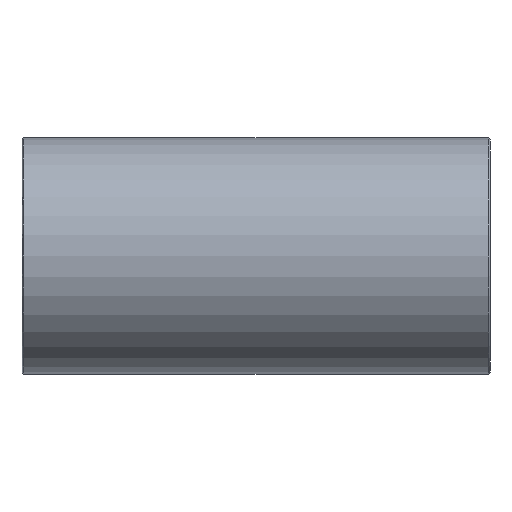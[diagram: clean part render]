
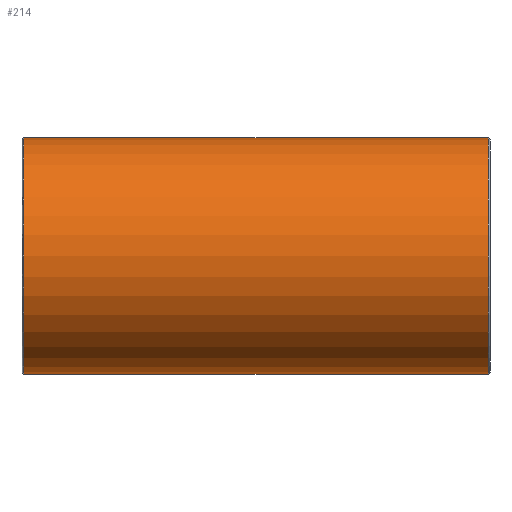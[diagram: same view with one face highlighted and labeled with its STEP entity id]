
A CAD part, front view. The second image highlights one B-rep face of the part: STEP entity #214.
In plain terms, the highlighted cylindrical face has radius 25 mm (diameter 50 mm), a full revolution.
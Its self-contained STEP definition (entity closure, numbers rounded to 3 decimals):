
#27=B_SPLINE_CURVE_WITH_KNOTS('',3,(#355,#356,#357,#358,#359,#360,#361,
#362,#363,#364,#365,#366,#367,#368,#369,#370,#371,#372,#373,#374,#375,#376,
#377,#378,#379,#380,#381,#382,#383,#384,#385,#386,#387,#388,#389,#390,#391,
#392,#393,#394,#395,#396,#397,#398,#399,#400,#401,#402,#403,#404,#405,#406,
#407,#408,#409,#410,#411,#412,#413,#414,#415,#416,#417,#418,#419,#420),
 .UNSPECIFIED.,.T.,.F.,(4,2,2,2,2,2,2,2,2,2,2,2,2,2,2,2,2,2,2,2,2,2,2,2,
2,2,2,2,2,2,2,2,4),(0.,0.372,0.743,1.115,
1.486,1.851,2.215,2.579,2.944,
3.308,3.672,4.037,4.401,4.772,
5.144,5.516,5.887,6.259,6.63,
7.002,7.373,7.738,8.102,8.466,
8.831,9.195,9.559,9.924,10.288,
10.659,11.031,11.403,11.774),
 .UNSPECIFIED.);
#29=FACE_BOUND('',#70,.T.);
#30=FACE_BOUND('',#71,.T.);
#50=FACE_OUTER_BOUND('',#69,.T.);
#69=EDGE_LOOP('',(#167));
#70=EDGE_LOOP('',(#168));
#71=EDGE_LOOP('',(#169));
#109=CIRCLE('',#236,25.);
#110=CIRCLE('',#237,25.);
#127=VERTEX_POINT('',#350);
#128=VERTEX_POINT('',#352);
#129=VERTEX_POINT('',#354);
#147=EDGE_CURVE('',#127,#127,#109,.T.);
#148=EDGE_CURVE('',#128,#128,#110,.T.);
#149=EDGE_CURVE('',#129,#129,#27,.T.);
#167=ORIENTED_EDGE('',*,*,#147,.F.);
#168=ORIENTED_EDGE('',*,*,#148,.F.);
#169=ORIENTED_EDGE('',*,*,#149,.F.);
#207=CYLINDRICAL_SURFACE('',#235,25.);
#214=ADVANCED_FACE('',(#50,#29,#30),#207,.T.);
#235=AXIS2_PLACEMENT_3D('',#349,#274,#275);
#236=AXIS2_PLACEMENT_3D('',#351,#276,#277);
#237=AXIS2_PLACEMENT_3D('',#353,#278,#279);
#274=DIRECTION('center_axis',(1.,0.,0.));
#275=DIRECTION('ref_axis',(0.,1.,0.));
#276=DIRECTION('center_axis',(-1.,0.,0.));
#277=DIRECTION('ref_axis',(0.,-1.,0.));
#278=DIRECTION('center_axis',(1.,0.,0.));
#279=DIRECTION('ref_axis',(0.,-1.,0.));
#349=CARTESIAN_POINT('Origin',(0.,0.,
0.));
#350=CARTESIAN_POINT('',(-49.1,25.,0.));
#351=CARTESIAN_POINT('Origin',(-49.1,0.,0.));
#352=CARTESIAN_POINT('',(49.1,25.,0.));
#353=CARTESIAN_POINT('Origin',(49.1,0.,0.));
#354=CARTESIAN_POINT('',(0.,16.815,18.5));
#355=CARTESIAN_POINT('Ctrl Pts',(0.,16.815,18.5));
#356=CARTESIAN_POINT('Ctrl Pts',(1.239,16.815,18.5));
#357=CARTESIAN_POINT('Ctrl Pts',(2.484,16.956,18.374));
#358=CARTESIAN_POINT('Ctrl Pts',(4.912,17.478,17.879));
#359=CARTESIAN_POINT('Ctrl Pts',(6.095,17.856,17.51));
#360=CARTESIAN_POINT('Ctrl Pts',(8.341,18.742,16.558));
#361=CARTESIAN_POINT('Ctrl Pts',(9.406,19.249,15.975));
#362=CARTESIAN_POINT('Ctrl Pts',(11.375,20.284,14.638));
#363=CARTESIAN_POINT('Ctrl Pts',(12.278,20.811,13.885));
#364=CARTESIAN_POINT('Ctrl Pts',(13.869,21.788,12.294));
#365=CARTESIAN_POINT('Ctrl Pts',(14.619,22.276,11.399));
#366=CARTESIAN_POINT('Ctrl Pts',(15.96,23.178,9.431));
#367=CARTESIAN_POINT('Ctrl Pts',(16.551,23.592,8.357));
#368=CARTESIAN_POINT('Ctrl Pts',(17.513,24.276,6.089));
#369=CARTESIAN_POINT('Ctrl Pts',(17.885,24.548,4.892));
#370=CARTESIAN_POINT('Ctrl Pts',(18.379,24.91,2.455));
#371=CARTESIAN_POINT('Ctrl Pts',(18.5,25.,1.214));
#372=CARTESIAN_POINT('Ctrl Pts',(18.5,25.,-1.214));
#373=CARTESIAN_POINT('Ctrl Pts',(18.379,24.91,-2.455));
#374=CARTESIAN_POINT('Ctrl Pts',(17.885,24.548,-4.892));
#375=CARTESIAN_POINT('Ctrl Pts',(17.513,24.276,-6.089));
#376=CARTESIAN_POINT('Ctrl Pts',(16.551,23.592,-8.357));
#377=CARTESIAN_POINT('Ctrl Pts',(15.96,23.178,-9.431));
#378=CARTESIAN_POINT('Ctrl Pts',(14.619,22.276,-11.399));
#379=CARTESIAN_POINT('Ctrl Pts',(13.869,21.788,-12.294));
#380=CARTESIAN_POINT('Ctrl Pts',(12.278,20.811,-13.885));
#381=CARTESIAN_POINT('Ctrl Pts',(11.375,20.284,-14.638));
#382=CARTESIAN_POINT('Ctrl Pts',(9.406,19.249,-15.975));
#383=CARTESIAN_POINT('Ctrl Pts',(8.341,18.742,-16.558));
#384=CARTESIAN_POINT('Ctrl Pts',(6.095,17.856,-17.51));
#385=CARTESIAN_POINT('Ctrl Pts',(4.912,17.478,-17.879));
#386=CARTESIAN_POINT('Ctrl Pts',(2.484,16.956,-18.374));
#387=CARTESIAN_POINT('Ctrl Pts',(1.239,16.815,-18.5));
#388=CARTESIAN_POINT('Ctrl Pts',(-1.239,16.815,-18.5));
#389=CARTESIAN_POINT('Ctrl Pts',(-2.484,16.956,-18.374));
#390=CARTESIAN_POINT('Ctrl Pts',(-4.912,17.478,-17.879));
#391=CARTESIAN_POINT('Ctrl Pts',(-6.095,17.856,-17.51));
#392=CARTESIAN_POINT('Ctrl Pts',(-8.341,18.742,-16.558));
#393=CARTESIAN_POINT('Ctrl Pts',(-9.406,19.249,-15.975));
#394=CARTESIAN_POINT('Ctrl Pts',(-11.375,20.284,-14.638));
#395=CARTESIAN_POINT('Ctrl Pts',(-12.278,20.811,-13.885));
#396=CARTESIAN_POINT('Ctrl Pts',(-13.869,21.788,-12.294));
#397=CARTESIAN_POINT('Ctrl Pts',(-14.619,22.276,-11.399));
#398=CARTESIAN_POINT('Ctrl Pts',(-15.96,23.178,-9.431));
#399=CARTESIAN_POINT('Ctrl Pts',(-16.551,23.592,-8.357));
#400=CARTESIAN_POINT('Ctrl Pts',(-17.513,24.276,-6.089));
#401=CARTESIAN_POINT('Ctrl Pts',(-17.885,24.548,-4.892));
#402=CARTESIAN_POINT('Ctrl Pts',(-18.379,24.91,-2.455));
#403=CARTESIAN_POINT('Ctrl Pts',(-18.5,25.,-1.214));
#404=CARTESIAN_POINT('Ctrl Pts',(-18.5,25.,1.214));
#405=CARTESIAN_POINT('Ctrl Pts',(-18.379,24.91,2.455));
#406=CARTESIAN_POINT('Ctrl Pts',(-17.885,24.548,4.892));
#407=CARTESIAN_POINT('Ctrl Pts',(-17.513,24.276,6.089));
#408=CARTESIAN_POINT('Ctrl Pts',(-16.551,23.592,8.357));
#409=CARTESIAN_POINT('Ctrl Pts',(-15.96,23.178,9.431));
#410=CARTESIAN_POINT('Ctrl Pts',(-14.619,22.276,11.399));
#411=CARTESIAN_POINT('Ctrl Pts',(-13.869,21.788,12.294));
#412=CARTESIAN_POINT('Ctrl Pts',(-12.278,20.811,13.885));
#413=CARTESIAN_POINT('Ctrl Pts',(-11.375,20.284,14.638));
#414=CARTESIAN_POINT('Ctrl Pts',(-9.406,19.249,15.975));
#415=CARTESIAN_POINT('Ctrl Pts',(-8.341,18.742,16.558));
#416=CARTESIAN_POINT('Ctrl Pts',(-6.095,17.856,17.51));
#417=CARTESIAN_POINT('Ctrl Pts',(-4.912,17.478,17.879));
#418=CARTESIAN_POINT('Ctrl Pts',(-2.484,16.956,18.374));
#419=CARTESIAN_POINT('Ctrl Pts',(-1.239,16.815,18.5));
#420=CARTESIAN_POINT('Ctrl Pts',(0.,16.815,18.5));
